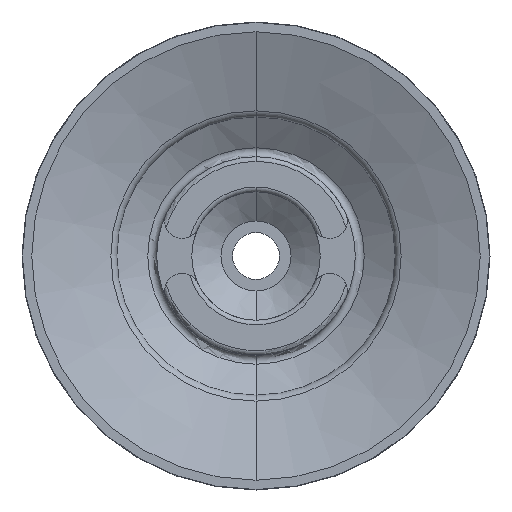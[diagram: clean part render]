
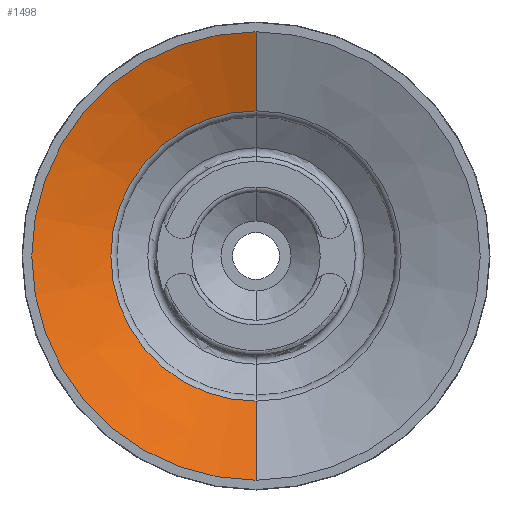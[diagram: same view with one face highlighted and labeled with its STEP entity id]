
A CAD part, front view. The second image highlights one B-rep face of the part: STEP entity #1498.
In plain terms, the highlighted conical face has half-angle 69 degrees and reference radius 12.428 mm.
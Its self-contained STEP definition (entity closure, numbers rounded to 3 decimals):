
#24 = DIRECTION ( 'NONE',  ( 0., 0., 1. ) ) ;
#182 = DIRECTION ( 'NONE',  ( 0., -1., 0. ) ) ;
#208 = EDGE_CURVE ( 'NONE', #365, #361, #380, .T. ) ;
#289 = ORIENTED_EDGE ( 'NONE', *, *, #757, .F. ) ;
#361 = VERTEX_POINT ( 'NONE', #2208 ) ;
#365 = VERTEX_POINT ( 'NONE', #824 ) ;
#380 = CIRCLE ( 'NONE', #2452, 12.428 ) ;
#524 = ORIENTED_EDGE ( 'NONE', *, *, #2907, .F. ) ;
#583 = VECTOR ( 'NONE', #2578, 1000. ) ;
#588 = VECTOR ( 'NONE', #2519, 1000. ) ;
#657 = DIRECTION ( 'NONE',  ( 0., 1., 0. ) ) ;
#757 = EDGE_CURVE ( 'NONE', #805, #1299, #1464, .T. ) ;
#778 = CARTESIAN_POINT ( 'NONE',  ( 0., 0.104, 0. ) ) ;
#805 = VERTEX_POINT ( 'NONE', #1254 ) ;
#824 = CARTESIAN_POINT ( 'NONE',  ( 0., 2.703, -12.428 ) ) ;
#1254 = CARTESIAN_POINT ( 'NONE',  ( 0., 0.104, -19.2 ) ) ;
#1299 = VERTEX_POINT ( 'NONE', #1937 ) ;
#1320 = CONICAL_SURFACE ( 'NONE', #2727, 12.428, 1.204 ) ;
#1377 = CARTESIAN_POINT ( 'NONE',  ( 0., 2.703, 0. ) ) ;
#1464 = CIRCLE ( 'NONE', #1702, 19.2 ) ;
#1498 = ADVANCED_FACE ( 'NONE', ( #2701 ), #1320, .F. ) ;
#1500 = ORIENTED_EDGE ( 'NONE', *, *, #208, .T. ) ;
#1679 = LINE ( 'NONE', #2864, #583 ) ;
#1702 = AXIS2_PLACEMENT_3D ( 'NONE', #778, #2617, #24 ) ;
#1800 = LINE ( 'NONE', #2530, #588 ) ;
#1937 = CARTESIAN_POINT ( 'NONE',  ( 0., 0.104, 19.2 ) ) ;
#2003 = EDGE_LOOP ( 'NONE', ( #1500, #2534, #289, #524 ) ) ;
#2208 = CARTESIAN_POINT ( 'NONE',  ( 0., 2.703, 12.428 ) ) ;
#2265 = CARTESIAN_POINT ( 'NONE',  ( 0., 2.703, 0. ) ) ;
#2452 = AXIS2_PLACEMENT_3D ( 'NONE', #1377, #657, #2500 ) ;
#2500 = DIRECTION ( 'NONE',  ( 0., 0., 1. ) ) ;
#2519 = DIRECTION ( 'NONE',  ( 0., -0.358, -0.934 ) ) ;
#2530 = CARTESIAN_POINT ( 'NONE',  ( 0., 2.703, -12.428 ) ) ;
#2534 = ORIENTED_EDGE ( 'NONE', *, *, #2553, .T. ) ;
#2553 = EDGE_CURVE ( 'NONE', #361, #1299, #1679, .T. ) ;
#2578 = DIRECTION ( 'NONE',  ( 0., -0.358, 0.934 ) ) ;
#2617 = DIRECTION ( 'NONE',  ( 0., 1., 0. ) ) ;
#2685 = DIRECTION ( 'NONE',  ( 0., 0., -1. ) ) ;
#2701 = FACE_OUTER_BOUND ( 'NONE', #2003, .T. ) ;
#2727 = AXIS2_PLACEMENT_3D ( 'NONE', #2265, #182, #2685 ) ;
#2864 = CARTESIAN_POINT ( 'NONE',  ( 0., 2.703, 12.428 ) ) ;
#2907 = EDGE_CURVE ( 'NONE', #365, #805, #1800, .T. ) ;
